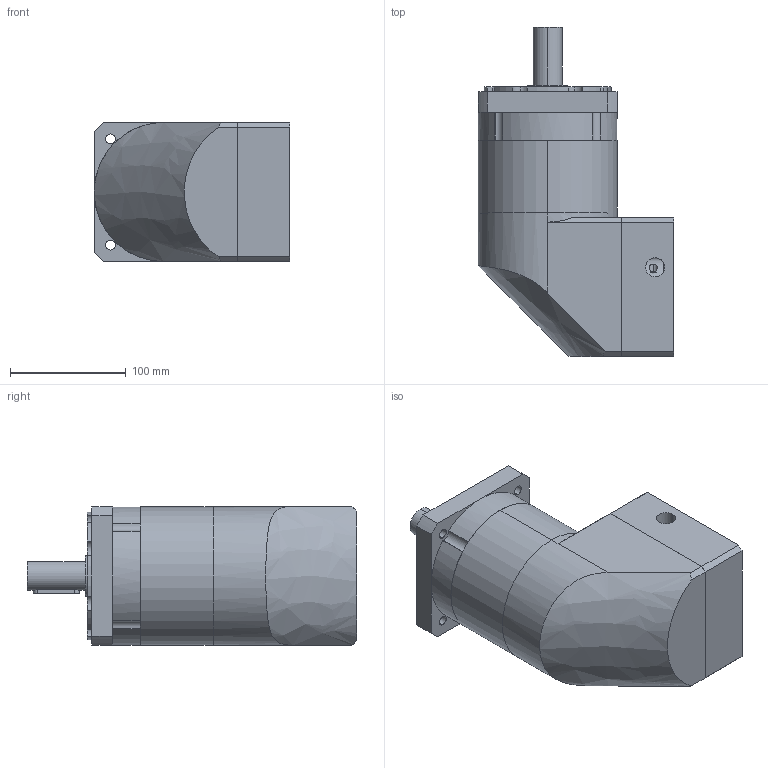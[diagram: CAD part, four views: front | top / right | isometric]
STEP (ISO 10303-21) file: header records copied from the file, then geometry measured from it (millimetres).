
FILE_DESCRIPTION (( 'STEP AP203' ), '1' );
FILE_NAME ('PVFA120-L2 19-95-115.STEP', '2023-06-13T08:06:24', ( 'Windows User' ), ( 'P R C' ), 'SwSTEP 2.0', 'SolidWorks 2016', '' );
FILE_SCHEMA (( 'CONFIG_CONTROL_DESIGN' ));
Length unit declared in the file: millimetre
Products named in the file (9): 螺釘範本 M8x20_1; 邧埴瑩 8x7x40_1; 粣創-3207A 35x72x27_2_1; PVFA120-L2 19-95-115; B-PVFA120-眊极; PVFA120 內齿圈-优化_二级内齿圈; PVFA120 奻屳唳; PVFA120-蟀諉啣-95-M8-115; PVFA120-薊粣ん-19
Assembly tree (8 placements, depth 2):
  PVFA120-L2 19-95-115
    B-PVFA120-眊极
    PVFA120 內齿圈-优化_二级内齿圈
    PVFA120 奻屳唳
    PVFA120-蟀諉啣-95-M8-115
    PVFA120-薊粣ん-19
    螺釘範本 M8x20_1
    邧埴瑩 8x7x40_1
    粣創-3207A 35x72x27_2_1
Bounding box: 169 x 284.5 x 120 mm (x, y, z)
Volume: 3009051 mm3; surface area: 320238.1 mm2
Topology: 8 solids, 16 shells, 1140 faces, 3088 edges, 2030 vertices
Faces by surface type: plane 618, bspline 281, cylinder 213, cone 28
Entity records: 46174 total; most frequent: CARTESIAN_POINT 18105, ORIENTED_EDGE 6140, DIRECTION 4805, EDGE_CURVE 3070, VERTEX_POINT 2030, VECTOR 1773, LINE 1773, AXIS2_PLACEMENT_3D 1516
